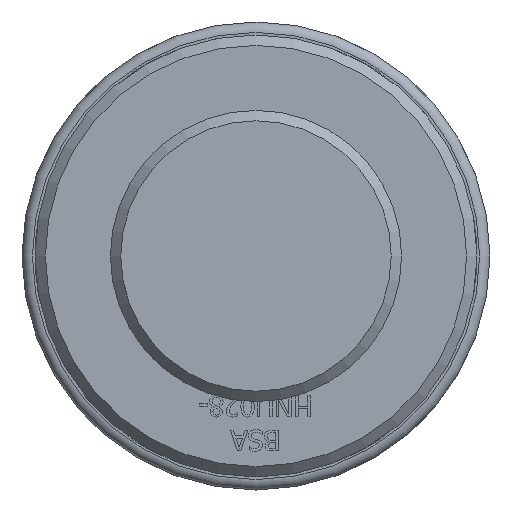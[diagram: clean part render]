
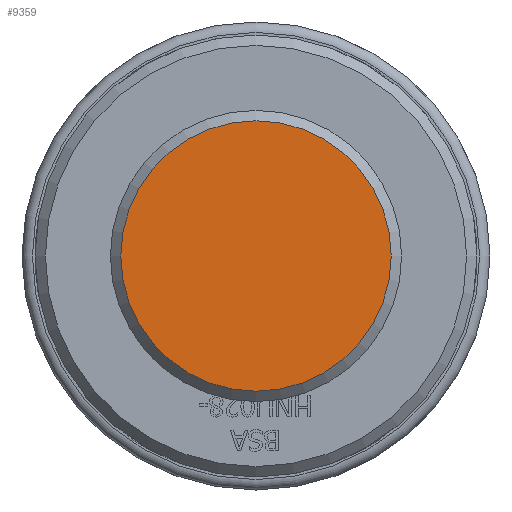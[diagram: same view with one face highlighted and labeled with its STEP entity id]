
A CAD part, front view. The second image highlights one B-rep face of the part: STEP entity #9359.
In plain terms, the highlighted planar face has unit normal (0, -1, 0) as drawn and (0, 1, 0) by its records, which use the part's own axes.
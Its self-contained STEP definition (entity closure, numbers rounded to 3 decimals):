
#61=CIRCLE('',#9867,26.);
#225=PLANE('',#9870);
#542=FACE_OUTER_BOUND('',#1101,.T.);
#1101=EDGE_LOOP('',(#6982));
#3995=VERTEX_POINT('',#13631);
#5104=EDGE_CURVE('',#3995,#3995,#61,.T.);
#6982=ORIENTED_EDGE('',*,*,#5104,.F.);
#9359=ADVANCED_FACE('',(#542),#225,.T.);
#9867=AXIS2_PLACEMENT_3D('',#13632,#10473,#10474);
#9870=AXIS2_PLACEMENT_3D('',#13636,#10479,#10480);
#10473=DIRECTION('center_axis',(0.,-1.,0.));
#10474=DIRECTION('ref_axis',(1.,0.,0.));
#10479=DIRECTION('center_axis',(0.,1.,0.));
#10480=DIRECTION('ref_axis',(0.,0.,1.));
#13631=CARTESIAN_POINT('',(-26.,250.,0.));
#13632=CARTESIAN_POINT('Origin',(0.,250.,0.));
#13636=CARTESIAN_POINT('Origin',(0.,250.,0.));
